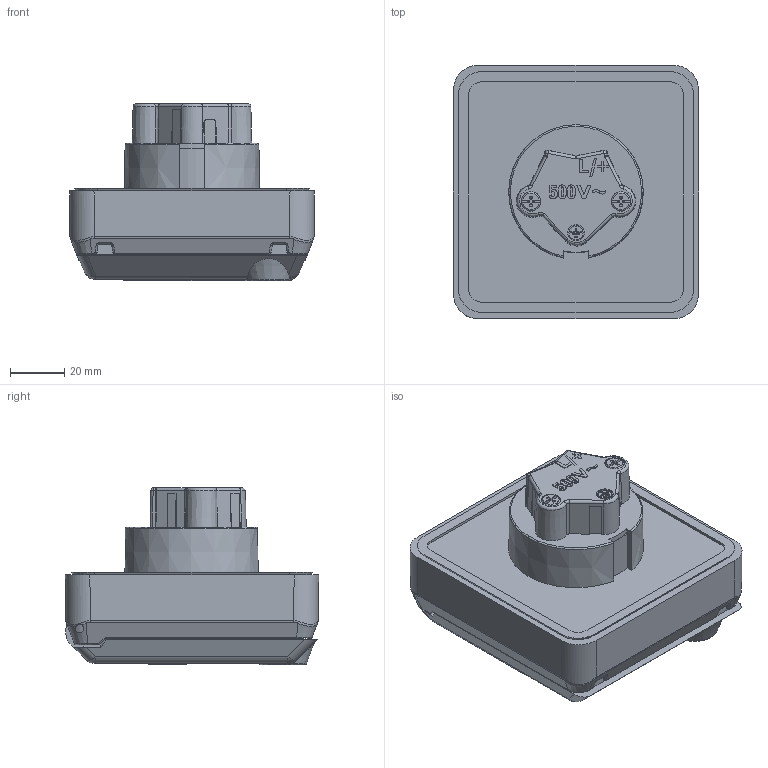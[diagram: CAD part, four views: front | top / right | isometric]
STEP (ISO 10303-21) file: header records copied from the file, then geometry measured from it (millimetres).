
FILE_DESCRIPTION((''),'2;1');
FILE_NAME('1117947_ASM_SW0001','2018-08-21T',('Gisse'),('MENNEKES'),'PRO/ENGINEER BY PARAMETRIC TECHNOLOGY CORPORATION, 2015440','PRO/ENGINEER BY PARAMETRIC TECHNOLOGY CORPORATION, 2015440','');
FILE_SCHEMA(('AUTOMOTIVE_DESIGN { 1 0 10303 214 1 1 1 1 }'));
Length unit declared in the file: millimetre
Products named in the file (1): 1117947_ASM_SW0001
Bounding box: 90 x 93 x 65.35 mm (x, y, z)
Volume: 297332.6 mm3; surface area: 37621.1 mm2
Topology: 1 solids, 1 shells, 485 faces, 1290 edges, 829 vertices
Faces by surface type: plane 232, cylinder 117, bspline 44, extrusion 44, cone 33, torus 13, sphere 2
Entity records: 23526 total; most frequent: CARTESIAN_POINT 5953, ORIENTED_EDGE 2580, DIRECTION 2099, EDGE_CURVE 1290, FILL_AREA_STYLE_COLOUR 910, FILL_AREA_STYLE 910, SURFACE_STYLE_FILL_AREA 910, SURFACE_SIDE_STYLE 910
